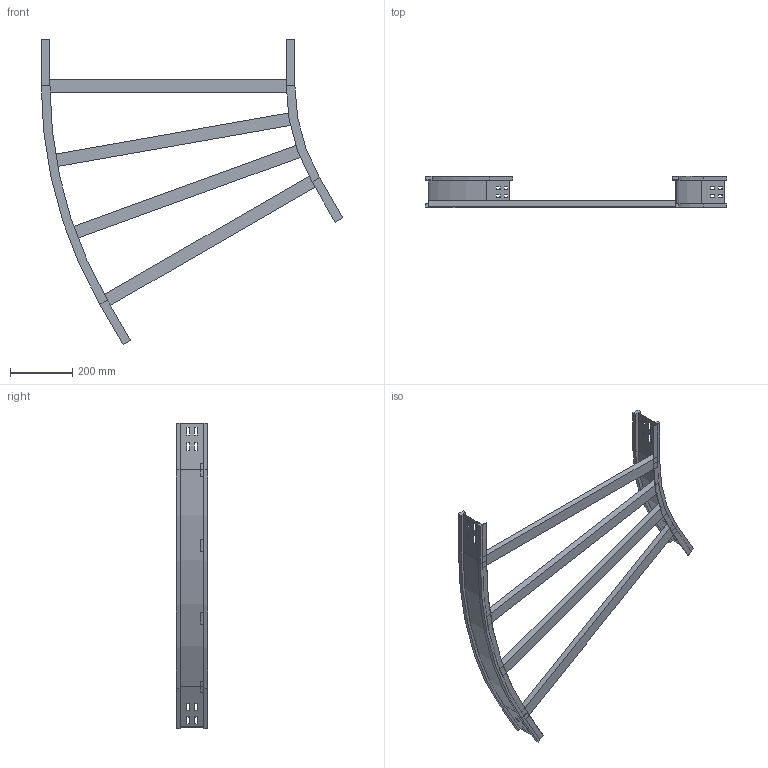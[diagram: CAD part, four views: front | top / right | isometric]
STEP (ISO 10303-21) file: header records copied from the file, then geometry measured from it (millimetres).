
FILE_DESCRIPTION (( 'STEP AP214' ), '1' );
FILE_NAME ('12S6D800.step', '2025-02-21T16:01:41', ( '' ), ( '' ), 'SwSTEP 2.0', 'SolidWorks 2023', '' );
FILE_SCHEMA (( 'AUTOMOTIVE_DESIGN' ));
Length unit declared in the file: millimetre
Products named in the file (4): LONGH.ESTERNO 30°_H100_R600+800; LONGH.INTERNO30°_H100_R600; TRAVERSINO_800; 12S6D800
Assembly tree (6 placements, depth 2):
  12S6D800
    LONGH.INTERNO30°_H100_R600
    LONGH.ESTERNO 30°_H100_R600+800
    TRAVERSINO_800  x4
Bounding box: 972.18 x 100 x 984.4 mm (x, y, z)
Volume: 3450306.5 mm3; surface area: 877998.7 mm2
Topology: 6 solids, 6 shells, 164 faces, 408 edges, 256 vertices
Faces by surface type: plane 152, cylinder 12
Entity records: 4485 total; most frequent: CARTESIAN_POINT 759, ORIENTED_EDGE 744, DIRECTION 706, EDGE_CURVE 372, LINE 348, VECTOR 348, VERTEX_POINT 232, AXIS2_PLACEMENT_3D 179
